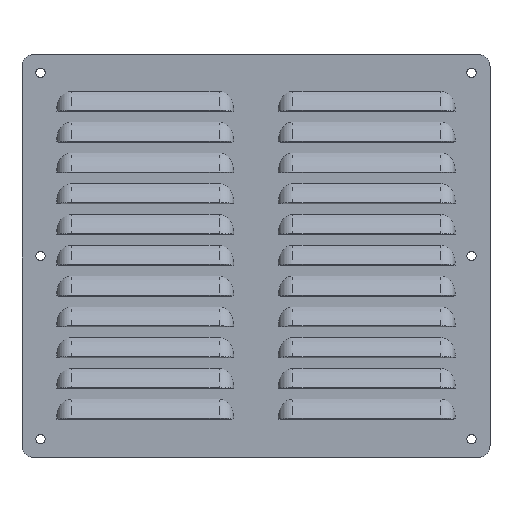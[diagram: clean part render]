
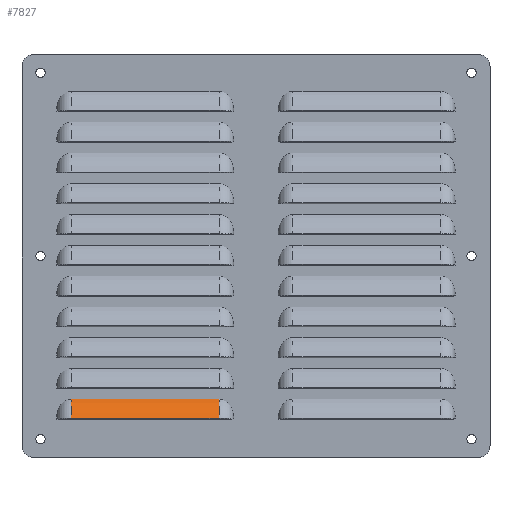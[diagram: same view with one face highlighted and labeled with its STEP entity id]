
A CAD part, top view. The second image highlights one B-rep face of the part: STEP entity #7827.
In plain terms, the highlighted cylindrical face has radius 20.015 mm (diameter 40.03 mm), a partial arc.
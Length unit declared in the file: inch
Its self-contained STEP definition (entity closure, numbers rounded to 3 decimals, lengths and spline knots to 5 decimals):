
#1259=DIRECTION('',(1.,0.,0.));
#1260=VECTOR('',#1259,3.);
#1261=CARTESIAN_POINT('',(-3.75,-2.9109,0.));
#1262=LINE('',#1261,#1260);
#2438=CARTESIAN_POINT('',(-3.75,-3.57184,-0.42907));
#2439=DIRECTION('',(-1.,0.,0.));
#2440=DIRECTION('',(0.,0.35,0.937));
#2441=AXIS2_PLACEMENT_3D('',#2438,#2439,#2440);
#2443=CARTESIAN_POINT('',(-3.75,-3.29568,0.30896));
#2499=CARTESIAN_POINT('',(-0.75,-3.57184,-0.42907));
#2500=DIRECTION('',(1.,0.,0.));
#2501=DIRECTION('',(0.,0.839,0.545));
#2502=AXIS2_PLACEMENT_3D('',#2499,#2500,#2501);
#2516=DIRECTION('',(1.,0.,0.));
#2517=VECTOR('',#2516,3.);
#2518=CARTESIAN_POINT('',(-3.75,-3.29568,0.30896));
#2519=LINE('',#2518,#2517);
#5902=VERTEX_POINT('',#2443);
#5904=CARTESIAN_POINT('',(-0.75,-3.29568,0.30896));
#5905=VERTEX_POINT('',#5904);
#5915=CARTESIAN_POINT('',(-3.75,-2.9109,0.));
#5916=CARTESIAN_POINT('',(-0.75,-2.9109,0.));
#5917=VERTEX_POINT('',#5915);
#5918=VERTEX_POINT('',#5916);
#7814=CARTESIAN_POINT('',(-0.25,-3.57184,-0.42907));
#7815=DIRECTION('',(1.,0.,0.));
#7816=DIRECTION('',(0.,1.,0.));
#7817=AXIS2_PLACEMENT_3D('',#7814,#7815,#7816);
#7818=CYLINDRICAL_SURFACE('',#7817,0.788);
#7819=ORIENTED_EDGE('',*,*,#7124,.T.);
#7821=ORIENTED_EDGE('',*,*,#7820,.T.);
#7823=ORIENTED_EDGE('',*,*,#7822,.F.);
#7824=ORIENTED_EDGE('',*,*,#7806,.T.);
#7825=EDGE_LOOP('',(#7819,#7821,#7823,#7824));
#7826=FACE_OUTER_BOUND('',#7825,.F.);
#2442=CIRCLE('',#2441,0.788);
#2503=CIRCLE('',#2502,0.788);
#7124=EDGE_CURVE('',#5917,#5918,#1262,.T.);
#7806=EDGE_CURVE('',#5902,#5917,#2442,.T.);
#7820=EDGE_CURVE('',#5918,#5905,#2503,.T.);
#7822=EDGE_CURVE('',#5902,#5905,#2519,.T.);
#7827=ADVANCED_FACE('',(#7826),#7818,.T.);
